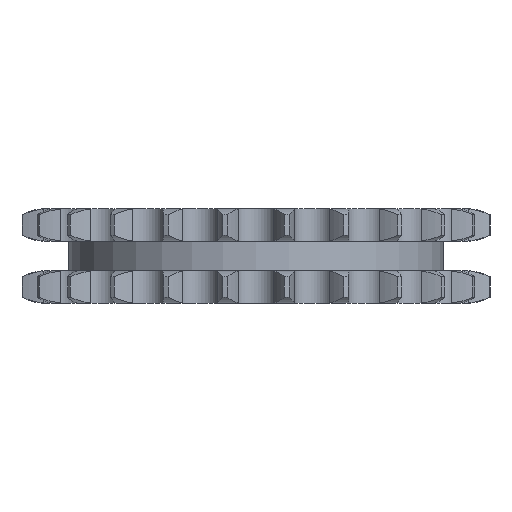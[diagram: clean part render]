
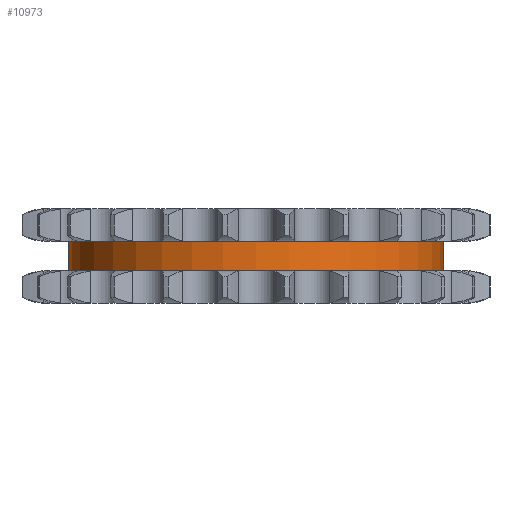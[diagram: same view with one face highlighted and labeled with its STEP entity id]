
A CAD part, left-side view. The second image highlights one B-rep face of the part: STEP entity #10973.
In plain terms, the highlighted cylindrical face has radius 30.487 mm (diameter 60.974 mm), a partial arc.
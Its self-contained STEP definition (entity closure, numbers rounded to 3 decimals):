
#2412=DIRECTION('',(0.,0.,-1.));
#2413=VECTOR('',#2412,4.8);
#2414=CARTESIAN_POINT('',(0.,30.487,2.4));
#2415=LINE('',#2414,#2413);
#2419=CARTESIAN_POINT('',(0.,0.,2.4));
#2420=DIRECTION('',(0.,0.,1.));
#2421=DIRECTION('',(0.,1.,0.));
#2422=AXIS2_PLACEMENT_3D('',#2419,#2420,#2421);
#2427=DIRECTION('',(0.,0.,-1.));
#2428=VECTOR('',#2427,4.8);
#2429=CARTESIAN_POINT('',(0.,-30.487,2.4));
#2430=LINE('',#2429,#2428);
#2434=CARTESIAN_POINT('',(0.,0.,-2.4));
#2435=DIRECTION('',(0.,0.,1.));
#2436=DIRECTION('',(0.,1.,0.));
#2437=AXIS2_PLACEMENT_3D('',#2434,#2435,#2436);
#8662=CARTESIAN_POINT('',(0.,30.487,2.4));
#8663=CARTESIAN_POINT('',(0.,30.487,-2.4));
#8664=VERTEX_POINT('',#8662);
#8665=VERTEX_POINT('',#8663);
#8666=CARTESIAN_POINT('',(0.,-30.487,2.4));
#8667=CARTESIAN_POINT('',(0.,-30.487,-2.4));
#8668=VERTEX_POINT('',#8666);
#8669=VERTEX_POINT('',#8667);
#10961=CARTESIAN_POINT('',(0.,0.,2.64));
#10962=DIRECTION('',(0.,0.,-1.));
#10963=DIRECTION('',(0.,-1.,0.));
#10964=AXIS2_PLACEMENT_3D('',#10961,#10962,#10963);
#10965=CYLINDRICAL_SURFACE('',#10964,30.487);
#10966=ORIENTED_EDGE('',*,*,#10951,.F.);
#10967=ORIENTED_EDGE('',*,*,#10941,.T.);
#10968=ORIENTED_EDGE('',*,*,#10955,.T.);
#10970=ORIENTED_EDGE('',*,*,#10969,.F.);
#10971=EDGE_LOOP('',(#10966,#10967,#10968,#10970));
#10972=FACE_OUTER_BOUND('',#10971,.F.);
#10973=ADVANCED_FACE('',(#10972),#10965,.T.);
#2423=CIRCLE('',#2422,30.487);
#2438=CIRCLE('',#2437,30.487);
#10941=EDGE_CURVE('',#8664,#8668,#2423,.T.);
#10951=EDGE_CURVE('',#8664,#8665,#2415,.T.);
#10955=EDGE_CURVE('',#8668,#8669,#2430,.T.);
#10969=EDGE_CURVE('',#8665,#8669,#2438,.T.);
